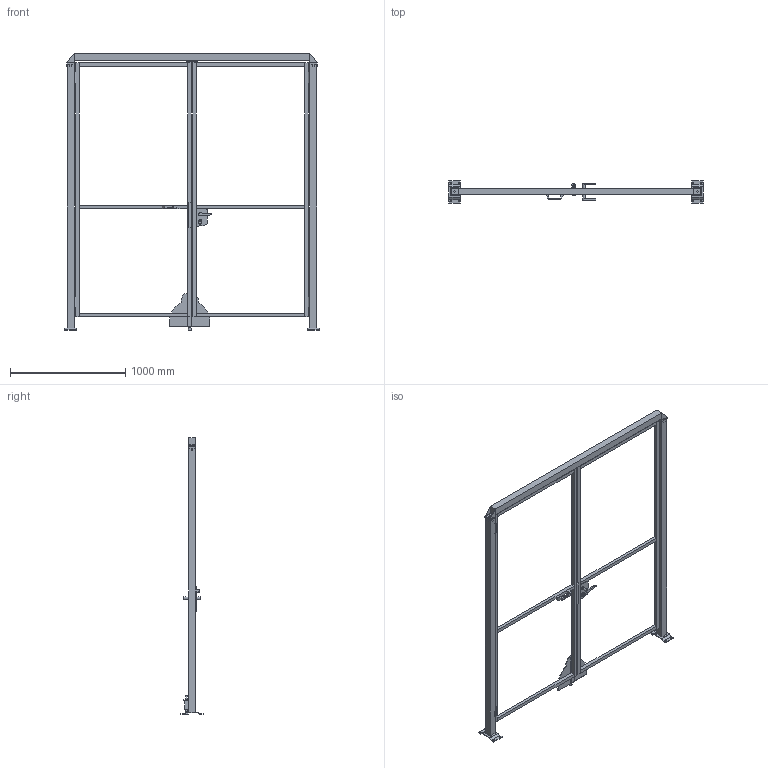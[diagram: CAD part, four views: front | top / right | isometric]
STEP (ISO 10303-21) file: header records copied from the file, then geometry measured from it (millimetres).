
FILE_DESCRIPTION(/* description */ (''),/* implementation_level */ '2;1');
FILE_NAME(/* name */ 'C:\SafeGuarding\ELABORATI\VZOR§GAMMA_2025-02-03-12-01-22.stp',/* time_stamp */ '2025-02-03T12:01:28+01:00',/* author */ ('admin'),/* organization */ (''),/* preprocessor_version */ 'ST-DEVELOPER v18.1',/* originating_system */ 'AutoCAD Mechanical',/* authorisation */ '');
FILE_SCHEMA (('AUTOMOTIVE_DESIGN { 1 0 10303 214 3 1 1 }'));
Length unit declared in the file: millimetre
Products named in the file (5): Product; *U4; DATI_PORTA; P_VFMA.ME60SDU.2320; R_VFPA.REPE30.10002200
Assembly tree (6 placements, depth 2):
  Product
    R_VFPA.REPE30.10002200  x2
    P_VFMA.ME60SDU.2320  x2
    *U4
    DATI_PORTA
Bounding box: 2205 x 192 x 2400.5 mm (x, y, z)
Volume: 38728696.5 mm3; surface area: 4005886.9 mm2
Topology: 38 solids, 49 shells, 429 faces, 1344 edges, 1304 vertices
Faces by surface type: plane 353, cylinder 71, bspline 4, cone 1
Full cylindrical faces by diameter (mm): 11 x25, 14 x2, 24 x1, 25 x2, 25.398 x2
Entity records: 13291 total; most frequent: CARTESIAN_POINT 3821, DIRECTION 1856, ORIENTED_EDGE 1688, EDGE_CURVE 893, LINE 762, VECTOR 762, VERTEX_POINT 632, AXIS2_PLACEMENT_3D 547
